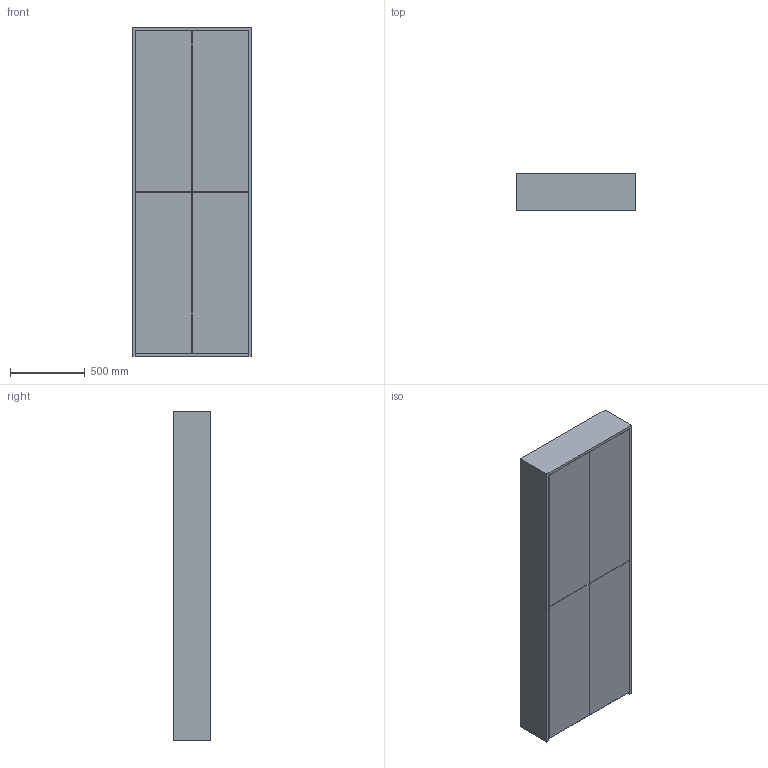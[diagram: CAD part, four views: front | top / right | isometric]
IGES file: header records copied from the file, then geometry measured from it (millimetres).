
Global section: file name: \\Archi-NAS\Comune\X GIOVANNI\MOBILI\BOISERIE + NICHE + COVERWALL\BOISERIE.igs; native system: Rhinoceros ( Jan 17 2018 ); preprocessor: Trout Lake IGES 012 Jan 17 2018; date: 230608.094750; units: millimetre
Bounding box: 800 x 250 x 2200 mm (x, y, z)
Surface area: 11683836.4 mm2 (no closed solid volume)
Topology: 0 solids, 0 shells, 76 faces, 312 edges, 312 vertices
Faces by surface type: bspline 76
